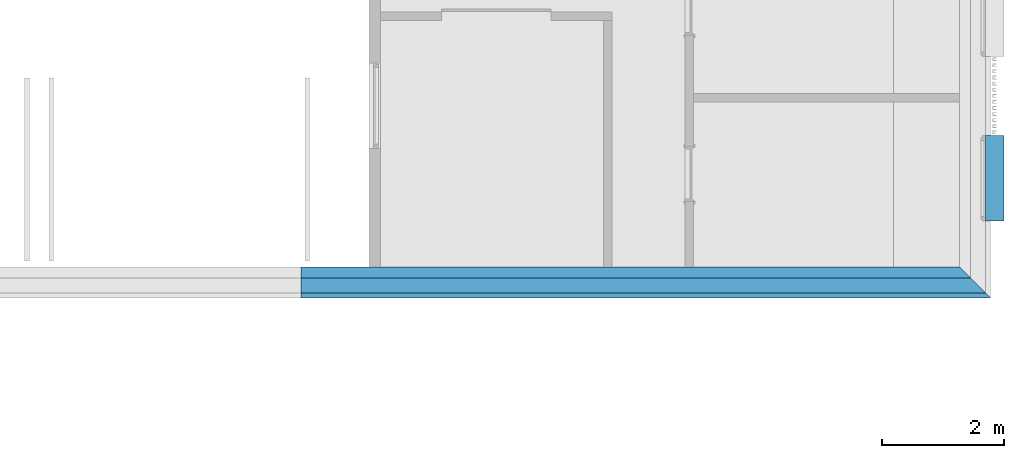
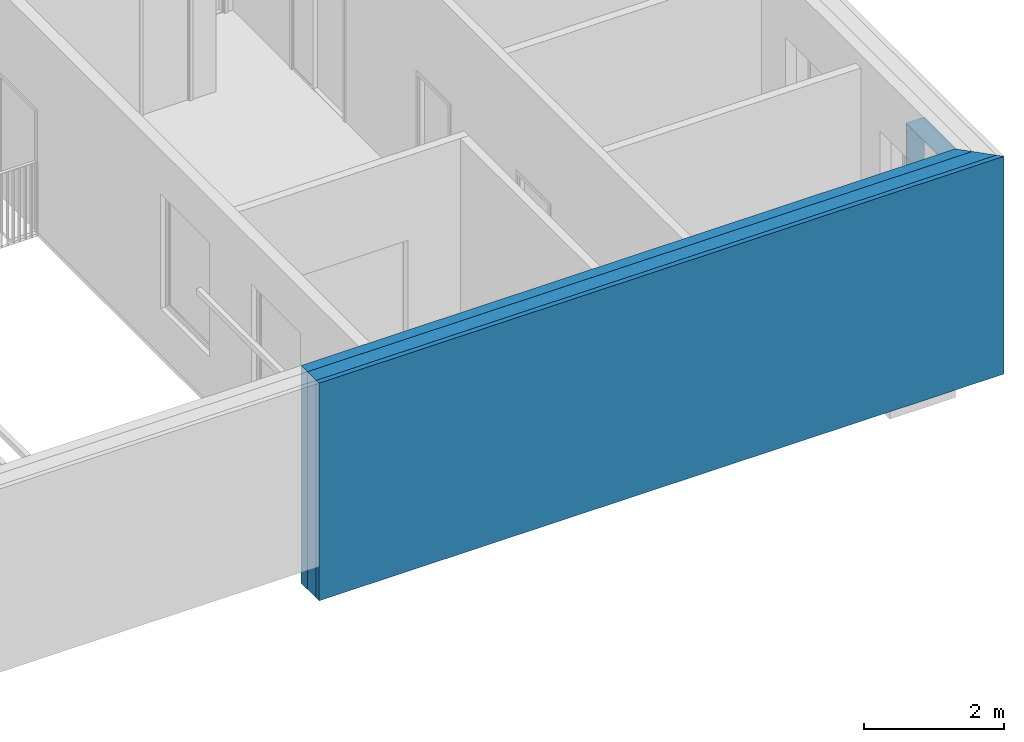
# One storey, part 29 of 100: 3 building element parts, 1 discrete accessory, 1 element without a shape of its own.
"""IFC2X3 building model written with IfcOpenShell, lengths in millimetres."""

from ifc_helpers import new_model, entity, si_unit, converted_unit, derived_unit, money_unit, direction, frame, origin_with_axes, place, context, subcontext, project, spatial, polyline, outline, extrude, faceted_brep, source, transform, mapped, material, type_object, element, aggregate, save


model = new_model("IFC2X3")

# Units and contexts
model_context = context("Model", 3, precision=0.01, world=origin_with_axes(), true_north=direction((0.0, 1.0)))
body_context = subcontext(model_context, "Body", "Model", "MODEL_VIEW")
ifc_project = project(units=[si_unit("LENGTHUNIT", "METRE", prefix="MILLI"), si_unit("AREAUNIT", "SQUARE_METRE"), si_unit("VOLUMEUNIT", "CUBIC_METRE"), converted_unit("PLANEANGLEUNIT", "DEGREE", entity("IfcPlaneAngleMeasure", 0.0174532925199), si_unit("PLANEANGLEUNIT", "RADIAN"), dimensions=[0, 0, 0, 0, 0, 0, 0]), si_unit("SOLIDANGLEUNIT", "STERADIAN"), money_unit("EUR"), converted_unit("TIMEUNIT", "Year", entity("IfcTimeMeasure", 31556926.0), si_unit("TIMEUNIT", "SECOND"), dimensions=[0, 0, 1, 0, 0, 0, 0]), si_unit("MASSUNIT", "GRAM", prefix="KILO"), si_unit("THERMODYNAMICTEMPERATUREUNIT", "DEGREE_CELSIUS"), si_unit("LUMINOUSINTENSITYUNIT", "LUMEN"), si_unit("ENERGYUNIT", "JOULE", prefix="MEGA"), derived_unit("THERMALCONDUCTANCEUNIT", [(si_unit("POWERUNIT", "WATT"), 1), (si_unit("LENGTHUNIT", "METRE"), -1), (si_unit("THERMODYNAMICTEMPERATUREUNIT", "KELVIN"), -1)]), derived_unit("SPECIFICHEATCAPACITYUNIT", [(si_unit("ENERGYUNIT", "JOULE"), 1), (si_unit("MASSUNIT", "GRAM", prefix="KILO"), -1), (si_unit("THERMODYNAMICTEMPERATUREUNIT", "KELVIN"), -1)]), derived_unit("MASSDENSITYUNIT", [(si_unit("MASSUNIT", "GRAM", prefix="KILO"), 1), (si_unit("VOLUMEUNIT", "CUBIC_METRE"), -1)])], contexts=[model_context])

# Site, building, storey
site_placement = place(None, origin_with_axes())
site = spatial("IfcSite", under=ifc_project, at=site_placement, Name="Politse- ja Piirivalveameti ning Päästeameti ühishoone", CompositionType="ELEMENT")
building_placement = place(site_placement, origin_with_axes())
building = spatial("IfcBuilding", under=site, at=building_placement, Name="Politse- ja Piirivalveameti ning Päästeameti ühishoone", CompositionType="ELEMENT")
storey_placement = place(building_placement, frame((0.0, 0.0, 3800.0), z_axis=(0.0, 0.0, 1.0), x_axis=(1.0, 0.0, 0.0)))
storey = spatial("IfcBuildingStorey", under=building, at=storey_placement, Name="Teine korrus", CompositionType="ELEMENT", Elevation=3800.0)

# Discrete accessory
ifc_material_1 = material(Name="SV-01_Krohv - Kips")
discrete_accessory_type = type_object("IfcDiscreteAccessoryType", Name="Architrave 01 23")
shared_shape = source(origin_with_axes(), body_context, "Body", "Brep", [
    faceted_brep([(-700.0, 0.0, -10.0), (700.0, 0.0, -10.0), (700.0, -300.182356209, -10.0), (-700.0, -300.182356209, -10.0), (-690.0, 0.0, 0.0), (690.0, 0.0, 0.0), (690.0, -300.182356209, 0.0), (-690.0, -300.182356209, 0.0)], [[[0, 1, 2, 3]], [[0, 4, 5, 1]], [[1, 5, 6, 2]], [[3, 2, 6, 7]], [[4, 0, 3, 7]], [[5, 4, 7, 6]]]),
    faceted_brep([(700.0, 0.0, -10.0), (700.0, 0.0, 1990.0), (700.0, -300.182356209, 1990.0), (700.0, -300.182356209, -10.0), (690.0, 0.0, 0.0), (690.0, 0.0, 1980.0), (690.0, -300.182356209, 1980.0), (690.0, -300.182356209, 0.0)], [[[0, 1, 2, 3]], [[0, 4, 5, 1]], [[1, 5, 6, 2]], [[3, 2, 6, 7]], [[4, 0, 3, 7]], [[5, 4, 7, 6]]]),
    faceted_brep([(700.0, 0.0, 1990.0), (-700.0, 0.0, 1990.0), (-700.0, -300.182356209, 1990.0), (700.0, -300.182356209, 1990.0), (690.0, 0.0, 1980.0), (-690.0, 0.0, 1980.0), (-690.0, -300.182356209, 1980.0), (690.0, -300.182356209, 1980.0)], [[[0, 1, 2, 3]], [[0, 4, 5, 1]], [[1, 5, 6, 2]], [[3, 2, 6, 7]], [[4, 0, 3, 7]], [[5, 4, 7, 6]]]),
    faceted_brep([(-700.0, 0.0, 1990.0), (-700.0, 0.0, -10.0), (-700.0, -300.182356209, -10.0), (-700.0, -300.182356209, 1990.0), (-690.0, 0.0, 1980.0), (-690.0, 0.0, 0.0), (-690.0, -300.182356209, 0.0), (-690.0, -300.182356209, 1980.0)], [[[0, 1, 2, 3]], [[0, 4, 5, 1]], [[1, 5, 6, 2]], [[3, 2, 6, 7]], [[4, 0, 3, 7]], [[5, 4, 7, 6]]]),
])
discrete_accessory_placement = place(storey_placement, frame((70090.5664192, 1449.95208321, 810.000049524), z_axis=(0.0, 0.0, 1.0), x_axis=(0.0, 1.0, 0.0)))
element("IfcDiscreteAccessory", 1, at=discrete_accessory_placement, inside=storey, type_object=discrete_accessory_type, material=ifc_material_1, Name="AKNARAAM 01", context=body_context, shape_type="MappedRepresentation", body=[
    mapped(shared_shape, transform((0.0, 0.0, 0.0))),
])

# Wall, building element parts
wall_type = type_object("IfcWallType", Name="VS-01_välissein 510", PredefinedType="NOTDEFINED")
wall_placement = place(storey_placement, frame((58860.5483979, 0.0, 0.0), z_axis=(0.0, 0.0, 1.0), x_axis=(1.0, 0.0, 0.0)))
wall = element("IfcWall", 2, at=wall_placement, inside=storey, type_object=wall_type, Name="VS-01")
ifc_material_2 = material(Name="KON-04_Betoon - Konstuktsioon")
building_element_part_1_placement = place(wall_placement, origin_with_axes())
building_element_part_1 = element("IfcBuildingElementPart", 3, at=building_element_part_1_placement, material=ifc_material_2, Name="KON-04_Betoon - Konstuktsioon", context=body_context, shape_type="SweptSolid", body=[
    extrude(outline(polyline([(0.0, -180.0), (10980.0180278, -180.0), (10800.0180278, 0.0), (0.0, 0.0), (0.0, -180.0)])), origin_with_axes(), (0.0, 0.0, 1.0), 3800.0),
])
ifc_material_3 = material(Name="SOJ-06_Soojustus - Plastik Kõva")
building_element_part_2_placement = place(wall_placement, origin_with_axes())
building_element_part_2 = element("IfcBuildingElementPart", 4, at=building_element_part_2_placement, material=ifc_material_3, Name="SOJ-06_Soojustus - Plastik Kõva", context=body_context, shape_type="SweptSolid", body=[
    extrude(outline(polyline([(0.0, -430.0), (11230.0180278, -430.0), (10980.0180278, -180.0), (0.0, -180.0), (0.0, -430.0)])), origin_with_axes(), (0.0, 0.0, 1.0), 3800.0),
])
building_element_part_3_placement = place(wall_placement, origin_with_axes())
building_element_part_3 = element("IfcBuildingElementPart", 5, at=building_element_part_3_placement, material=ifc_material_2, Name="KON-04_Betoon - Konstuktsioon", context=body_context, shape_type="SweptSolid", body=[
    extrude(outline(polyline([(0.0, -510.0), (11310.0180278, -510.0), (11230.0180278, -430.0), (0.0, -430.0), (0.0, -510.0)])), origin_with_axes(), (0.0, 0.0, 1.0), 3800.0),
])
aggregate(wall, [building_element_part_1, building_element_part_2, building_element_part_3])

save(model, "model.ifc")
